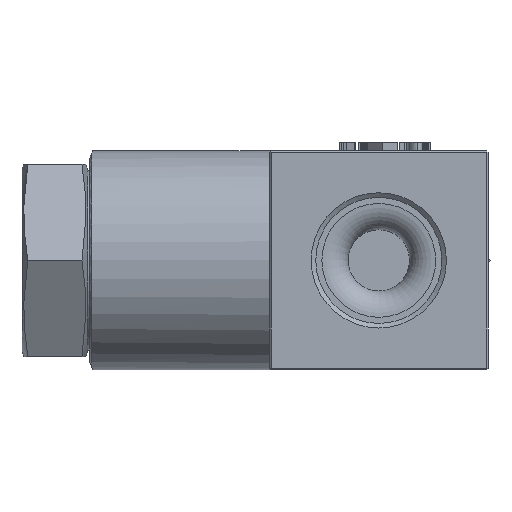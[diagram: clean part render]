
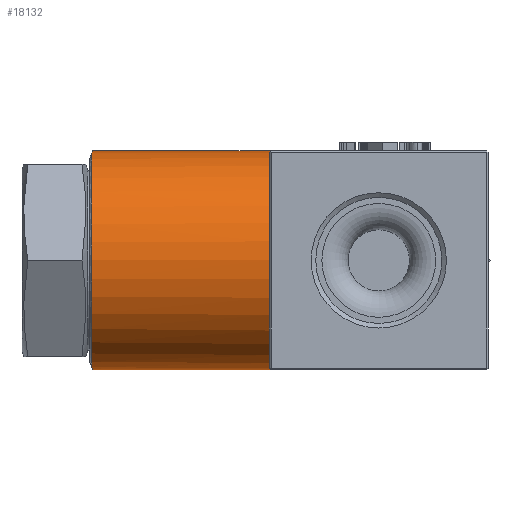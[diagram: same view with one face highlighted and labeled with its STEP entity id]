
A CAD part, front view. The second image highlights one B-rep face of the part: STEP entity #18132.
In plain terms, the highlighted cylindrical face has radius 12.5 mm (diameter 25 mm), a full revolution.
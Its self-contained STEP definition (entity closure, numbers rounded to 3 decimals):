
#47=ELLIPSE('',#18813,17.678,12.5);
#48=ELLIPSE('',#18815,17.678,12.5);
#49=ELLIPSE('',#18829,17.678,12.5);
#50=ELLIPSE('',#18834,17.678,12.5);
#909=B_SPLINE_CURVE_WITH_KNOTS('',3,(#31835,#31836,#31837,#31838),
 .UNSPECIFIED.,.F.,.F.,(4,4),(3.542,3.804),
 .UNSPECIFIED.);
#910=B_SPLINE_CURVE_WITH_KNOTS('',3,(#31840,#31841,#31842,#31843),
 .UNSPECIFIED.,.F.,.F.,(4,4),(3.804,4.065),
 .UNSPECIFIED.);
#914=B_SPLINE_CURVE_WITH_KNOTS('',3,(#31977,#31978,#31979,#31980),
 .UNSPECIFIED.,.F.,.F.,(4,4),(-0.262,0.),.UNSPECIFIED.);
#915=B_SPLINE_CURVE_WITH_KNOTS('',3,(#31981,#31982,#31983,#31984),
 .UNSPECIFIED.,.F.,.F.,(4,4),(0.,0.262),.UNSPECIFIED.);
#5601=FACE_BOUND('',#7605,.T.);
#6552=FACE_OUTER_BOUND('',#7604,.T.);
#7604=EDGE_LOOP('',(#17073,#17074,#17075,#17076,#17077,#17078));
#7605=EDGE_LOOP('',(#17079,#17080,#17081,#17082,#17083,#17084));
#7659=CIRCLE('',#18807,12.5);
#7660=CIRCLE('',#18832,12.5);
#7661=CIRCLE('',#18836,12.5);
#7662=CIRCLE('',#18839,12.5);
#9323=VERTEX_POINT('',#31792);
#9332=VERTEX_POINT('',#31828);
#9334=VERTEX_POINT('',#31834);
#9335=VERTEX_POINT('',#31839);
#9351=VERTEX_POINT('',#31884);
#9357=VERTEX_POINT('',#31896);
#9359=VERTEX_POINT('',#31900);
#9362=VERTEX_POINT('',#31948);
#9365=VERTEX_POINT('',#31958);
#9366=VERTEX_POINT('',#31964);
#9367=VERTEX_POINT('',#31971);
#9368=VERTEX_POINT('',#31976);
#11885=EDGE_CURVE('',#9332,#9334,#909,.T.);
#11886=EDGE_CURVE('',#9334,#9335,#910,.T.);
#11912=EDGE_CURVE('',#9357,#9359,#7659,.T.);
#11922=EDGE_CURVE('',#9323,#9357,#47,.T.);
#11924=EDGE_CURVE('',#9351,#9359,#48,.F.);
#11937=EDGE_CURVE('',#9323,#9362,#49,.F.);
#11943=EDGE_CURVE('',#9365,#9362,#7660,.T.);
#11944=EDGE_CURVE('',#9365,#9351,#50,.F.);
#11946=EDGE_CURVE('',#9335,#9366,#7661,.T.);
#11948=EDGE_CURVE('',#9366,#9368,#914,.T.);
#11949=EDGE_CURVE('',#9368,#9367,#915,.T.);
#11950=EDGE_CURVE('',#9367,#9332,#7662,.T.);
#17073=ORIENTED_EDGE('',*,*,#11950,.F.);
#17074=ORIENTED_EDGE('',*,*,#11949,.F.);
#17075=ORIENTED_EDGE('',*,*,#11948,.F.);
#17076=ORIENTED_EDGE('',*,*,#11946,.F.);
#17077=ORIENTED_EDGE('',*,*,#11886,.F.);
#17078=ORIENTED_EDGE('',*,*,#11885,.F.);
#17079=ORIENTED_EDGE('',*,*,#11943,.T.);
#17080=ORIENTED_EDGE('',*,*,#11937,.F.);
#17081=ORIENTED_EDGE('',*,*,#11922,.T.);
#17082=ORIENTED_EDGE('',*,*,#11912,.T.);
#17083=ORIENTED_EDGE('',*,*,#11924,.F.);
#17084=ORIENTED_EDGE('',*,*,#11944,.F.);
#17190=CYLINDRICAL_SURFACE('',#18838,12.5);
#18132=ADVANCED_FACE('',(#6552,#5601),#17190,.T.);
#18807=AXIS2_PLACEMENT_3D('',#31902,#22100,#22101);
#18813=AXIS2_PLACEMENT_3D('',#31918,#22121,#22122);
#18815=AXIS2_PLACEMENT_3D('',#31921,#22126,#22127);
#18829=AXIS2_PLACEMENT_3D('',#31949,#22166,#22167);
#18832=AXIS2_PLACEMENT_3D('',#31960,#22177,#22178);
#18834=AXIS2_PLACEMENT_3D('',#31962,#22181,#22182);
#18836=AXIS2_PLACEMENT_3D('',#31969,#22185,#22186);
#18838=AXIS2_PLACEMENT_3D('',#31985,#22189,#22190);
#18839=AXIS2_PLACEMENT_3D('',#31986,#22191,#22192);
#22100=DIRECTION('center_axis',(-1.,0.,0.));
#22101=DIRECTION('ref_axis',(0.,0.,1.));
#22121=DIRECTION('center_axis',(-0.707,0.,0.707));
#22122=DIRECTION('ref_axis',(-0.707,0.,-0.707));
#22126=DIRECTION('center_axis',(-0.707,0.,-0.707));
#22127=DIRECTION('ref_axis',(0.707,0.,-0.707));
#22166=DIRECTION('center_axis',(-0.707,0.,
0.707));
#22167=DIRECTION('ref_axis',(-0.707,0.,-0.707));
#22177=DIRECTION('center_axis',(-1.,0.,0.));
#22178=DIRECTION('ref_axis',(0.,0.,1.));
#22181=DIRECTION('center_axis',(-0.707,0.,
-0.707));
#22182=DIRECTION('ref_axis',(0.707,0.,-0.707));
#22185=DIRECTION('center_axis',(-1.,0.,0.));
#22186=DIRECTION('ref_axis',(0.,-1.,0.));
#22189=DIRECTION('center_axis',(-1.,0.,0.));
#22190=DIRECTION('ref_axis',(0.,1.,0.));
#22191=DIRECTION('center_axis',(-1.,0.,0.));
#22192=DIRECTION('ref_axis',(0.,1.,0.));
#31792=CARTESIAN_POINT('',(-12.3,-29.612,12.5));
#31828=CARTESIAN_POINT('',(-32.8,-26.949,-12.213));
#31834=CARTESIAN_POINT('',(-32.692,-29.612,-12.5));
#31835=CARTESIAN_POINT('Ctrl Pts',(-32.8,-26.949,
-12.213));
#31836=CARTESIAN_POINT('Ctrl Pts',(-32.728,-27.839,
-12.407));
#31837=CARTESIAN_POINT('Ctrl Pts',(-32.692,-28.74,-12.5));
#31838=CARTESIAN_POINT('Ctrl Pts',(-32.692,-29.612,-12.5));
#31839=CARTESIAN_POINT('',(-32.8,-32.274,-12.213));
#31840=CARTESIAN_POINT('Ctrl Pts',(-32.692,-29.612,
-12.5));
#31841=CARTESIAN_POINT('Ctrl Pts',(-32.692,-30.483,-12.5));
#31842=CARTESIAN_POINT('Ctrl Pts',(-32.728,-31.385,
-12.407));
#31843=CARTESIAN_POINT('Ctrl Pts',(-32.8,-32.274,
-12.213));
#31884=CARTESIAN_POINT('',(-12.3,-29.612,-12.5));
#31896=CARTESIAN_POINT('',(-12.5,-27.385,12.3));
#31900=CARTESIAN_POINT('',(-12.5,-27.385,-12.3));
#31902=CARTESIAN_POINT('Origin',(-12.5,-29.612,0.));
#31918=CARTESIAN_POINT('Origin',(-24.8,-29.612,0.));
#31921=CARTESIAN_POINT('Origin',(-24.8,-29.612,0.));
#31948=CARTESIAN_POINT('',(-12.5,-31.839,12.3));
#31949=CARTESIAN_POINT('Origin',(-24.8,-29.612,0.));
#31958=CARTESIAN_POINT('',(-12.5,-31.839,-12.3));
#31960=CARTESIAN_POINT('Origin',(-12.5,-29.612,0.));
#31962=CARTESIAN_POINT('Origin',(-24.8,-29.612,0.));
#31964=CARTESIAN_POINT('',(-32.8,-32.274,12.213));
#31969=CARTESIAN_POINT('Origin',(-32.8,-29.612,0.));
#31971=CARTESIAN_POINT('',(-32.8,-26.949,12.213));
#31976=CARTESIAN_POINT('',(-32.692,-29.612,12.5));
#31977=CARTESIAN_POINT('Ctrl Pts',(-32.8,-32.274,
12.213));
#31978=CARTESIAN_POINT('Ctrl Pts',(-32.728,-31.385,
12.407));
#31979=CARTESIAN_POINT('Ctrl Pts',(-32.692,-30.483,12.5));
#31980=CARTESIAN_POINT('Ctrl Pts',(-32.692,-29.612,12.5));
#31981=CARTESIAN_POINT('Ctrl Pts',(-32.692,-29.612,12.5));
#31982=CARTESIAN_POINT('Ctrl Pts',(-32.692,-28.74,12.5));
#31983=CARTESIAN_POINT('Ctrl Pts',(-32.728,-27.839,
12.407));
#31984=CARTESIAN_POINT('Ctrl Pts',(-32.8,-26.949,
12.213));
#31985=CARTESIAN_POINT('Origin',(-22.75,-29.612,0.));
#31986=CARTESIAN_POINT('Origin',(-32.8,-29.612,0.));
